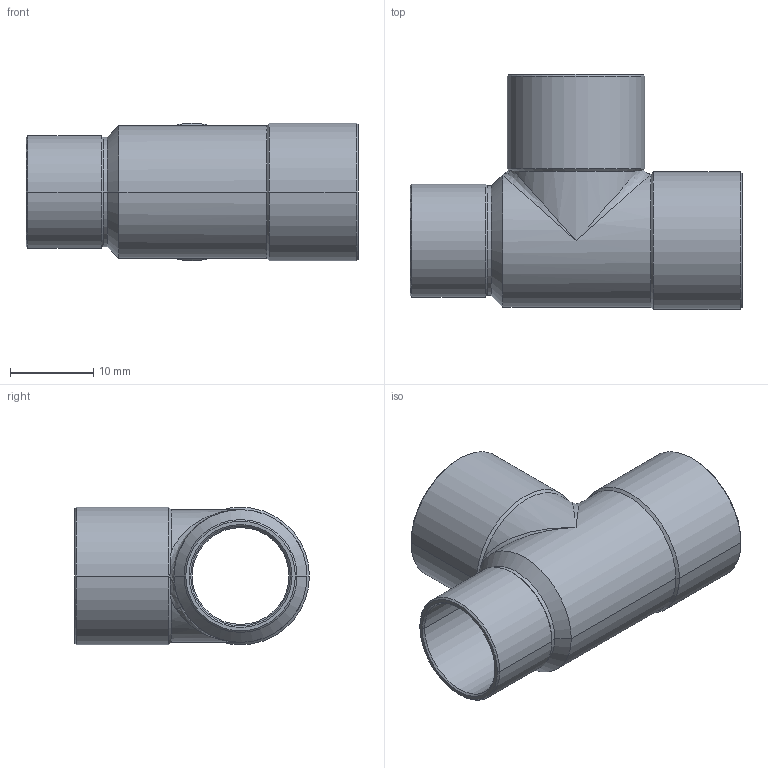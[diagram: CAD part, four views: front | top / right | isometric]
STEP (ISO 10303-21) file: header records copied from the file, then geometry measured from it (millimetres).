
FILE_DESCRIPTION((''),'2;1');
FILE_NAME('P:\Bouwmaten\z-maattekeningen 3D\5000\5130\5130151512.stp','2005-10-26T11:52:51',('Kris'),(''),'Autodesk Inventor 8','Autodesk Inventor 8','');
FILE_SCHEMA(('AUTOMOTIVE_DESIGN { 1 0 10303 214 1 1 1 1 }'));
Length unit declared in the file: millimetre
Products named in the file (1): 5130151512
Bounding box: 40 x 28.3 x 16.6 mm (x, y, z)
Volume: 1863.4 mm3; surface area: 4864 mm2
Topology: 1 solids, 1 shells, 57 faces, 140 edges, 76 vertices
Faces by surface type: cone 28, cylinder 22, bspline 4, plane 3
Entity records: 2099 total; most frequent: CARTESIAN_POINT 778, DIRECTION 290, ORIENTED_EDGE 264, EDGE_CURVE 132, AXIS2_PLACEMENT_3D 124, VERTEX_POINT 76, EDGE_LOOP 60, FACE_OUTER_BOUND 57
